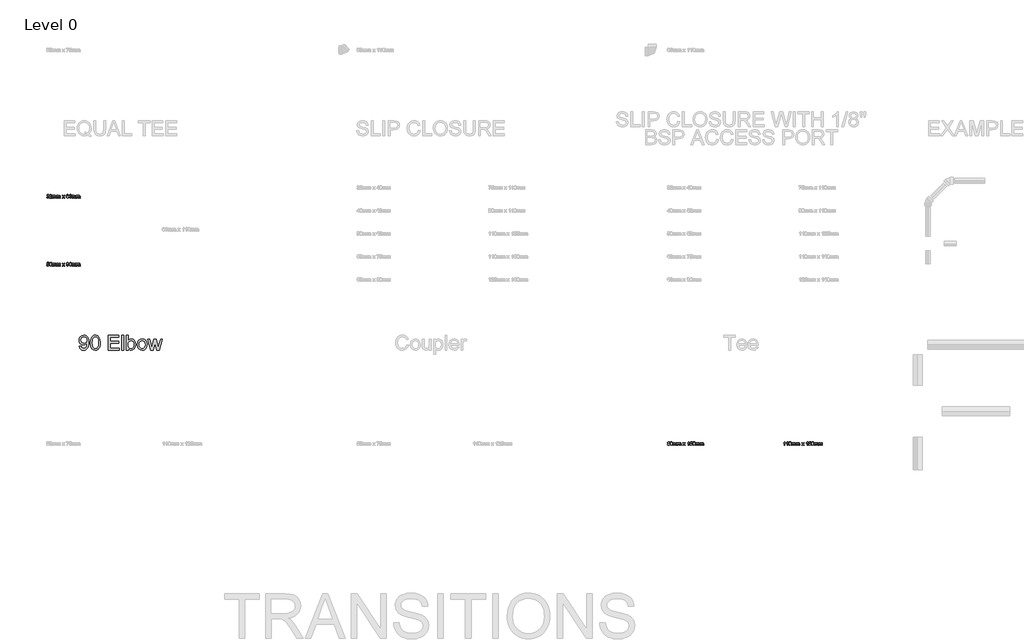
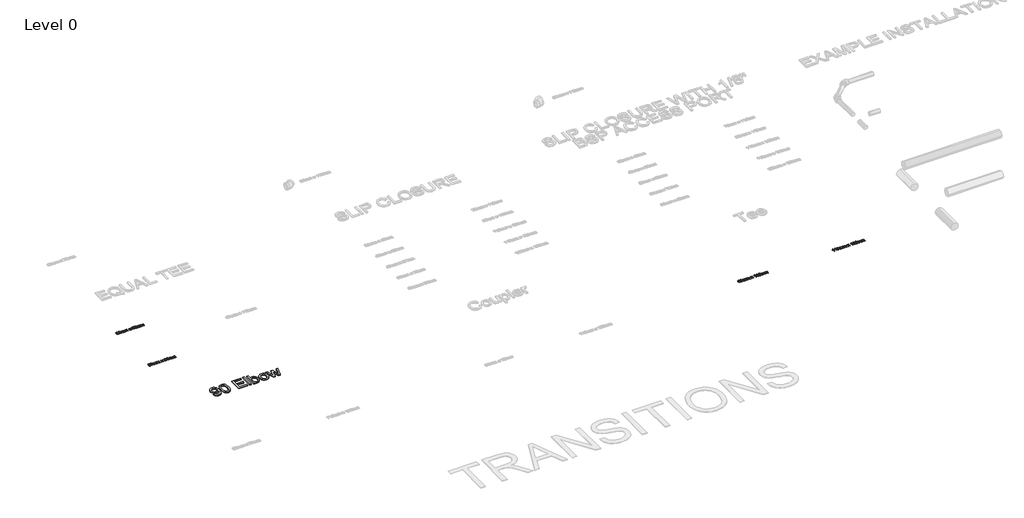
# One storey, part 7 of 21: 5 proxies.
"""IFC4 building model written with IfcOpenShell, lengths in millimetres."""

from ifc_helpers import new_model, si_unit, origin, origin_with_axes, place, context, project, spatial, polyline, outline, extrude, element, save

model = new_model("IFC4")

# Units and contexts
model_context = context("Model", 3, world=origin())
ifc_project = project(units=[si_unit("LENGTHUNIT", "METRE", prefix="MILLI")], contexts=[model_context])

# Site, building, storey
site = spatial("IfcSite", under=ifc_project)
building = spatial("IfcBuilding", under=site)
storey = spatial("IfcBuildingStorey", under=building, Name="Level 0", Elevation=0.0)

# Proxies
placement = place(None, origin())
element("IfcBuildingElementProxy", 1, Name="200mm Arial", ObjectType="200mm Arial", at=placement, inside=storey, context=model_context, shape_type="SweptSolid", body=[
    extrude(outline(polyline([(-11195.4471642, -7302.983108), (-11170.3330867, -7299.8438483), (-11166.04113, -7314.0992756), (-11159.0513721, -7323.8052289), (-11149.5354912, -7329.3786412), (-11137.6651655, -7331.2364452), (-11117.3335539, -7326.4539793), (-11103.5502418, -7313.6762113), (-11095.3342106, -7291.8485463), (-11091.7044416, -7262.7122923), (-11091.8515944, -7257.807199), (-11100.5520035, -7268.4267259), (-11111.9379513, -7276.8389609), (-11125.1878345, -7282.3204026), (-11139.48005, -7284.1475499), (-11162.3807042, -7279.683915), (-11181.4431229, -7266.2930104), (-11194.3005986, -7245.6057795), (-11198.5864239, -7219.2531659), (-11194.0921322, -7192.0298983), (-11180.6092571, -7170.6927425), (-11160.3573532, -7156.8971677), (-11135.5559754, -7152.2986428), (-11116.8246505, -7154.9228677), (-11099.77332, -7162.7955424), (-11085.5117613, -7175.5242594), (-11075.1497518, -7192.7166113), (-11068.8405756, -7216.4817882), (-11066.7375168, -7248.9289802), (-11068.8344442, -7283.3320781), (-11075.1252263, -7309.923815), (-11085.5546809, -7329.9059387), (-11100.0676256, -7344.4801971), (-11118.038661, -7353.3829414), (-11138.8423879, -7356.3505228), (-11160.3144337, -7352.8495125), (-11177.4454719, -7342.3464815), (-11189.4261622, -7325.5036175), (-11195.4471642, -7302.983108)]), holes=[polyline([(-11091.8515944, -7218.6645547), (-11094.5616584, -7201.6438811), (-11102.6918505, -7188.547282), (-11115.3102029, -7180.1963608), (-11131.484748, -7177.4127203), (-11148.2601669, -7180.4109586), (-11161.7001225, -7189.4056734), (-11170.5292904, -7203.1705914), (-11173.4723463, -7220.4794392), (-11170.6887059, -7235.9979281), (-11162.3377846, -7248.3158435), (-11149.2289229, -7256.3540651), (-11132.171461, -7259.0334723), (-11116.1256747, -7256.3540651), (-11103.2068853, -7248.3158435), (-11094.6904171, -7235.5442069), (-11091.8515944, -7218.6645547)])]), origin_with_axes(), (0.0, 0.0, 1.0), 15.0),
    extrude(outline(polyline([(-11044.762699, -7254.3736337), (-11042.9171576, -7222.214616), (-11037.3805336, -7196.5671095), (-11028.2080092, -7177.038707), (-11015.4547667, -7163.2370008), (-10999.0288356, -7155.0332323), (-10978.8382454, -7152.2986428), (-10963.3626762, -7153.9173236), (-10949.5057877, -7158.7733659), (-10937.9175048, -7166.6766974), (-10929.2477525, -7177.4372458), (-10917.4755286, -7207.162111), (-10912.9137919, -7254.3736337), (-10914.7409391, -7286.3487105), (-10920.2223809, -7311.9349032), (-10929.339723, -7331.4816999), (-10942.0745714, -7345.3385884), (-10958.5372907, -7353.5975392), (-10978.8382454, -7356.3505228), (-11004.9333416, -7351.5680568), (-11024.7499184, -7337.220659), (-11033.5055099, -7322.091512), (-11039.7595038, -7303.2406254), (-11044.762699, -7254.3736337)]), holes=[polyline([(-11019.6486214, -7254.3245828), (-11016.7055655, -7293.8289777), (-11007.8763976, -7316.6928437), (-10994.7307476, -7327.6005449), (-10978.8382454, -7331.2364452), (-10962.9457432, -7327.5882821), (-10949.8000933, -7316.6437928), (-10940.9709254, -7293.767664), (-10938.0278694, -7254.3245828), (-10940.8728235, -7215.709236), (-10949.4076858, -7192.6675604), (-10962.5288103, -7181.2264303), (-10979.132551, -7177.4127203), (-10994.853375, -7180.7727092), (-11007.4839901, -7190.8526759), (-11016.6074636, -7215.3290913), (-11019.6486214, -7254.3245828)])]), origin_with_axes(), (0.0, 0.0, 1.0), 15.0),
    extrude(outline(polyline([(-10803.0397027, -7353.2112631), (-10803.0397027, -7152.2986428), (-10658.6337568, -7152.2986428), (-10658.6337568, -7177.4127203), (-10777.9256251, -7177.4127203), (-10777.9256251, -7237.0586545), (-10664.9122762, -7237.0586545), (-10664.9122762, -7262.172732), (-10777.9256251, -7262.172732), (-10777.9256251, -7328.0971856), (-10655.4944971, -7328.0971856), (-10655.4944971, -7353.2112631), (-10803.0397027, -7353.2112631)])), origin_with_axes(), (0.0, 0.0, 1.0), 15.0),
    extrude(outline(polyline([(-10620.9626405, -7353.2112631), (-10620.9626405, -7152.2986428), (-10595.848563, -7152.2986428), (-10595.848563, -7353.2112631), (-10620.9626405, -7353.2112631)])), origin_with_axes(), (0.0, 0.0, 1.0), 15.0),
    extrude(outline(polyline([(-10533.0633691, -7353.2112631), (-10558.1774467, -7353.2112631), (-10558.1774467, -7152.2986428), (-10533.0633691, -7152.2986428), (-10533.0633691, -7226.8070095), (-10515.4786098, -7208.5968508), (-10505.0859434, -7204.0443111), (-10493.6264193, -7202.5267979), (-10468.4632908, -7207.9959769), (-10448.9410196, -7223.3734443), (-10436.9480665, -7247.2857739), (-10432.607059, -7277.2313684), (-10437.1013507, -7310.7576808), (-10450.5842258, -7335.7000801), (-10470.3701458, -7351.1879121), (-10493.7735721, -7356.3505228), (-10505.6101753, -7354.6858568), (-10516.1040092, -7349.6918587), (-10525.2550738, -7341.3685285), (-10533.0633691, -7329.7158663), (-10533.0633691, -7353.2112631)]), holes=[polyline([(-10533.0633691, -7278.4085907), (-10531.3465865, -7299.353339), (-10526.1962386, -7313.5290585), (-10513.0383259, -7326.8095986), (-10495.9318131, -7331.2364452), (-10481.4372625, -7327.9745582), (-10469.051902, -7318.1888971), (-10460.5538279, -7301.9407757), (-10457.7211365, -7279.2915075), (-10460.4373319, -7256.3111456), (-10468.5859181, -7240.2469651), (-10480.5850025, -7230.7923978), (-10494.8526926, -7227.6408754), (-10509.3472432, -7230.9027624), (-10521.7326037, -7240.6884235), (-10530.2306778, -7256.6422394), (-10533.0633691, -7278.4085907)])]), origin_with_axes(), (0.0, 0.0, 1.0), 15.0),
    extrude(outline(polyline([(-10410.6322411, -7279.4386603), (-10405.1998504, -7243.8644714), (-10398.4093619, -7230.0413054), (-10388.902678, -7218.8607585), (-10368.7672701, -7206.610288), (-10344.6587367, -7202.5267979), (-10318.2754663, -7207.4993362), (-10297.2019593, -7222.4169511), (-10283.3879904, -7246.1024202), (-10278.7833341, -7277.3785212), (-10280.8189478, -7302.7501161), (-10286.9257889, -7322.0639208), (-10296.9260478, -7336.5278146), (-10310.6419149, -7347.3496766), (-10326.9329559, -7354.1003112), (-10344.6587367, -7356.3505228), (-10371.3608382, -7351.3963786), (-10392.4098197, -7336.533946), (-10406.0766358, -7312.3518362), (-10410.6322411, -7279.4386603)]), holes=[polyline([(-10385.5181636, -7279.3896094), (-10382.6118959, -7302.1185853), (-10373.8930926, -7318.3115245), (-10360.7719681, -7328.0052151), (-10344.6587367, -7331.2364452), (-10328.6190817, -7327.986821), (-10315.5224827, -7318.2379481), (-10306.8036794, -7301.8304111), (-10303.8974116, -7278.6047945), (-10306.8220735, -7256.5380061), (-10315.5960591, -7240.5657962), (-10328.7110522, -7230.8721056), (-10344.6587367, -7227.6408754), (-10360.7719681, -7230.8598429), (-10373.8930926, -7240.5167452), (-10382.6118959, -7256.6728962), (-10385.5181636, -7279.3896094)])]), origin_with_axes(), (0.0, 0.0, 1.0), 15.0),
    extrude(outline(polyline([(-10226.0535814, -7353.2112631), (-10270.9351848, -7205.6660576), (-10244.8400887, -7205.6660576), (-10219.3826546, -7291.7504444), (-10211.77976, -7322.5053792), (-10205.5502916, -7292.8786159), (-10185.2922564, -7205.6660576), (-10155.3711874, -7205.6660576), (-10135.2112541, -7292.6333612), (-10129.6684987, -7319.4642214), (-10121.7222476, -7291.1618332), (-10096.2157626, -7205.6660576), (-10070.0225645, -7205.6660576), (-10115.2475245, -7353.2112631), (-10145.6100518, -7353.2112631), (-10164.8870684, -7266.6854178), (-10170.4788747, -7239.7074048), (-10195.3476976, -7353.2112631), (-10226.0535814, -7353.2112631)])), origin_with_axes(), (0.0, 0.0, 1.0), 15.0),
])
element("IfcBuildingElementProxy", 2, Name="50mm", ObjectType="50mm", at=placement, inside=storey, context=model_context, shape_type="SweptSolid", body=[
    extrude(outline(polyline([(-11638.2285688, -5283.2605095), (-11631.9500494, -5282.4756946), (-11628.4858273, -5289.0853078), (-11622.0049728, -5291.1086588), (-11614.3775528, -5288.3250183), (-11611.5448614, -5281.4333623), (-11614.3530273, -5274.9402451), (-11621.4899381, -5272.3712025), (-11625.8922593, -5273.0579155), (-11625.1932835, -5266.7793962), (-11617.0630914, -5265.0503508), (-11613.8993062, -5259.5075954), (-11616.1924373, -5254.5963707), (-11622.1030747, -5252.6527275), (-11628.0872885, -5254.6147648), (-11631.1652345, -5260.5008768), (-11637.4437539, -5259.7160618), (-11632.3056687, -5249.8690871), (-11622.3238039, -5246.3742082), (-11614.7515662, -5248.0971222), (-11609.4540654, -5252.8060117), (-11607.6207868, -5259.1397134), (-11609.3620949, -5264.9277234), (-11614.5124429, -5269.08479), (-11607.6698378, -5273.3767466), (-11605.2663421, -5281.5437269), (-11610.0733335, -5292.7763905), (-11622.225702, -5297.3871782), (-11633.2376364, -5293.4508408), (-11638.2285688, -5283.2605095)])), origin_with_axes(), (0.0, 0.0, 1.0), 5.0),
    extrude(outline(polyline([(-11567.5952258, -5290.3238438), (-11567.5952258, -5296.6023632), (-11600.5574525, -5296.6023632), (-11599.8830022, -5292.2736184), (-11596.0692922, -5285.6088229), (-11588.2088802, -5278.3308908), (-11577.3686241, -5267.8707794), (-11574.6585601, -5260.7583942), (-11577.2153399, -5255.0010409), (-11583.8923981, -5252.6527275), (-11590.8514992, -5254.9458586), (-11593.4941182, -5261.2856917), (-11599.7726376, -5260.5008768), (-11594.9595148, -5249.9917144), (-11583.7575081, -5246.3742082), (-11572.5187131, -5250.3963846), (-11568.3800407, -5260.3782494), (-11569.4959494, -5266.3318064), (-11573.2054262, -5272.4876984), (-11582.200141, -5281.0900058), (-11589.4228908, -5287.1294019), (-11592.2555822, -5290.3238438), (-11567.5952258, -5290.3238438)])), origin_with_axes(), (0.0, 0.0, 1.0), 5.0),
    extrude(outline(polyline([(-11559.7470765, -5296.6023632), (-11559.7470765, -5259.7160618), (-11553.4685571, -5259.7160618), (-11553.4685571, -5265.7861148), (-11549.1520751, -5260.8135765), (-11543.0084457, -5258.9312469), (-11536.7176636, -5260.8503647), (-11533.2595729, -5266.2275732), (-11528.360611, -5260.7553285), (-11522.1740621, -5258.9312469), (-11513.9641622, -5261.9662734), (-11511.0885513, -5271.3166074), (-11511.0885513, -5296.6023632), (-11517.3670707, -5296.6023632), (-11517.3670707, -5274.0144087), (-11517.9495505, -5268.7720903), (-11520.0587406, -5266.190785), (-11523.6455901, -5265.2097663), (-11529.8198762, -5267.7236266), (-11532.2785542, -5275.7802423), (-11532.2785542, -5296.6023632), (-11538.5570736, -5296.6023632), (-11538.5570736, -5273.3154329), (-11540.0102075, -5267.2331173), (-11544.7742793, -5265.2097663), (-11549.4218552, -5266.558667), (-11552.512064, -5270.507267), (-11553.4685571, -5277.999797), (-11553.4685571, -5296.6023632), (-11559.7470765, -5296.6023632)])), origin_with_axes(), (0.0, 0.0, 1.0), 5.0),
    extrude(outline(polyline([(-11501.6707722, -5296.6023632), (-11501.6707722, -5259.7160618), (-11495.3922528, -5259.7160618), (-11495.3922528, -5265.7861148), (-11491.0757708, -5260.8135765), (-11484.9321414, -5258.9312469), (-11478.6413593, -5260.8503647), (-11475.1832686, -5266.2275732), (-11470.2843067, -5260.7553285), (-11464.0977578, -5258.9312469), (-11455.8878579, -5261.9662734), (-11453.012247, -5271.3166074), (-11453.012247, -5296.6023632), (-11459.2907664, -5296.6023632), (-11459.2907664, -5274.0144087), (-11459.8732462, -5268.7720903), (-11461.9824363, -5266.190785), (-11465.5692858, -5265.2097663), (-11471.7435719, -5267.7236266), (-11474.2022499, -5275.7802423), (-11474.2022499, -5296.6023632), (-11480.4807693, -5296.6023632), (-11480.4807693, -5273.3154329), (-11481.9339032, -5267.2331173), (-11486.697975, -5265.2097663), (-11491.3455509, -5266.558667), (-11494.4357597, -5270.507267), (-11495.3922528, -5277.999797), (-11495.3922528, -5296.6023632), (-11501.6707722, -5296.6023632)])), origin_with_axes(), (0.0, 0.0, 1.0), 5.0),
    extrude(outline(polyline([(-11427.8981695, -5296.6023632), (-11414.4827394, -5278.0611107), (-11427.1133545, -5259.7160618), (-11419.5595109, -5259.7160618), (-11413.4649325, -5268.5452297), (-11410.6199784, -5272.714559), (-11408.155169, -5269.3055192), (-11401.2144621, -5259.7160618), (-11393.6606184, -5259.7160618), (-11406.9288957, -5278.0611107), (-11394.1511278, -5296.6023632), (-11401.7049714, -5296.6023632), (-11409.3937051, -5285.4555388), (-11410.8039194, -5283.4199251), (-11420.3443258, -5296.6023632), (-11427.8981695, -5296.6023632)])), origin_with_axes(), (0.0, 0.0, 1.0), 5.0),
    extrude(outline(polyline([(-11338.4292682, -5259.7160618), (-11344.7077876, -5260.5008768), (-11347.0867578, -5255.2646897), (-11353.37754, -5252.6527275), (-11359.0429227, -5254.1733065), (-11363.3287479, -5259.8816087), (-11365.1129756, -5271.0713528), (-11359.5763516, -5266.0620263), (-11352.7153524, -5264.4249514), (-11342.0467745, -5268.900849), (-11337.6444533, -5280.4646064), (-11339.7168552, -5289.1282274), (-11345.4190261, -5295.2595939), (-11353.6473201, -5297.3871782), (-11366.4434822, -5291.7463209), (-11370.1544918, -5284.2783164), (-11371.391495, -5273.1560174), (-11370.0180689, -5260.6510953), (-11365.8977905, -5252.1009045), (-11360.2722617, -5247.8058823), (-11352.9851325, -5246.3742082), (-11343.0645814, -5249.918138), (-11338.4292682, -5259.7160618)]), holes=[polyline([(-11365.1129756, -5280.3665045), (-11363.6598417, -5285.8050267), (-11359.7970808, -5289.7536268), (-11354.1378294, -5291.1086588), (-11346.73727, -5288.3004929), (-11343.9229727, -5280.6730728), (-11346.7004818, -5273.3706152), (-11354.3953468, -5270.7034708), (-11361.99211, -5273.3706152), (-11365.1129756, -5280.3665045)])]), origin_with_axes(), (0.0, 0.0, 1.0), 5.0),
    extrude(outline(polyline([(-11332.1507488, -5283.2605095), (-11325.8722295, -5282.4756946), (-11322.4080073, -5289.0853078), (-11315.9271529, -5291.1086588), (-11308.2997328, -5288.3250183), (-11305.4670415, -5281.4333623), (-11308.2752074, -5274.9402451), (-11315.4121181, -5272.3712025), (-11319.8144393, -5273.0579155), (-11319.1154635, -5266.7793962), (-11310.9852714, -5265.0503508), (-11307.8214862, -5259.5075954), (-11310.1146173, -5254.5963707), (-11316.0252547, -5252.6527275), (-11322.0094685, -5254.6147648), (-11325.0874145, -5260.5008768), (-11331.3659339, -5259.7160618), (-11326.2278487, -5249.8690871), (-11316.2459839, -5246.3742082), (-11308.6737462, -5248.0971222), (-11303.3762455, -5252.8060117), (-11301.5429668, -5259.1397134), (-11303.284275, -5264.9277234), (-11308.4346229, -5269.08479), (-11301.5920178, -5273.3767466), (-11299.1885221, -5281.5437269), (-11303.9955135, -5292.7763905), (-11316.1478821, -5297.3871782), (-11327.1598164, -5293.4508408), (-11332.1507488, -5283.2605095)])), origin_with_axes(), (0.0, 0.0, 1.0), 5.0),
    extrude(outline(polyline([(-11292.1251878, -5296.6023632), (-11292.1251878, -5259.7160618), (-11285.8466684, -5259.7160618), (-11285.8466684, -5265.7861148), (-11281.5301863, -5260.8135765), (-11275.386557, -5258.9312469), (-11269.0957749, -5260.8503647), (-11265.6376841, -5266.2275732), (-11260.7387222, -5260.7553285), (-11254.5521733, -5258.9312469), (-11246.3422735, -5261.9662734), (-11243.4666625, -5271.3166074), (-11243.4666625, -5296.6023632), (-11249.7451819, -5296.6023632), (-11249.7451819, -5274.0144087), (-11250.3276618, -5268.7720903), (-11252.4368519, -5266.190785), (-11256.0237013, -5265.2097663), (-11262.1979875, -5267.7236266), (-11264.6566655, -5275.7802423), (-11264.6566655, -5296.6023632), (-11270.9351848, -5296.6023632), (-11270.9351848, -5273.3154329), (-11272.3883187, -5267.2331173), (-11277.1523906, -5265.2097663), (-11281.7999664, -5266.558667), (-11284.8901752, -5270.507267), (-11285.8466684, -5277.999797), (-11285.8466684, -5296.6023632), (-11292.1251878, -5296.6023632)])), origin_with_axes(), (0.0, 0.0, 1.0), 5.0),
    extrude(outline(polyline([(-11234.0488835, -5296.6023632), (-11234.0488835, -5259.7160618), (-11227.7703641, -5259.7160618), (-11227.7703641, -5265.7861148), (-11223.453882, -5260.8135765), (-11217.3102527, -5258.9312469), (-11211.0194706, -5260.8503647), (-11207.5613798, -5266.2275732), (-11202.6624179, -5260.7553285), (-11196.475869, -5258.9312469), (-11188.2659692, -5261.9662734), (-11185.3903582, -5271.3166074), (-11185.3903582, -5296.6023632), (-11191.6688776, -5296.6023632), (-11191.6688776, -5274.0144087), (-11192.2513574, -5268.7720903), (-11194.3605476, -5266.190785), (-11197.947397, -5265.2097663), (-11204.1216832, -5267.7236266), (-11206.5803612, -5275.7802423), (-11206.5803612, -5296.6023632), (-11212.8588805, -5296.6023632), (-11212.8588805, -5273.3154329), (-11214.3120144, -5267.2331173), (-11219.0760863, -5265.2097663), (-11223.7236621, -5266.558667), (-11226.8138709, -5270.507267), (-11227.7703641, -5277.999797), (-11227.7703641, -5296.6023632), (-11234.0488835, -5296.6023632)])), origin_with_axes(), (0.0, 0.0, 1.0), 5.0),
])
element("IfcBuildingElementProxy", 3, Name="50mm", ObjectType="50mm", at=placement, inside=storey, context=model_context, shape_type="SweptSolid", body=[
    extrude(outline(polyline([(-11638.2285688, -6203.2605095), (-11631.9500494, -6202.4756946), (-11628.7862643, -6208.9442864), (-11622.225702, -6211.1086588), (-11614.3530273, -6208.0981578), (-11611.5448614, -6200.1089871), (-11614.1752177, -6192.6532453), (-11622.1276002, -6189.9186558), (-11627.6396987, -6191.0100391), (-11631.1652345, -6193.8427305), (-11637.4437539, -6193.0579155), (-11631.9500494, -6167.1590231), (-11607.6207868, -6167.1590231), (-11607.6207868, -6173.4375425), (-11626.8732779, -6173.4375425), (-11629.5588165, -6187.2699055), (-11620.3740293, -6183.6401365), (-11609.6380064, -6188.1405595), (-11605.2663421, -6199.7165797), (-11609.2026794, -6211.3661762), (-11614.8557994, -6215.8819277), (-11622.2502275, -6217.3871782), (-11633.3296069, -6213.5182858), (-11638.2285688, -6203.2605095)])), origin_with_axes(), (0.0, 0.0, 1.0), 5.0),
    extrude(outline(polyline([(-11599.7726376, -6191.8929559), (-11597.9270963, -6177.4413248), (-11592.4456545, -6169.1087977), (-11583.2915242, -6166.3742082), (-11575.9584098, -6167.9928889), (-11570.893901, -6172.6588589), (-11567.950845, -6180.0900752), (-11566.8104108, -6191.8929559), (-11568.6375581, -6206.2832733), (-11574.1006057, -6214.6341946), (-11583.2915242, -6217.3871782), (-11594.7694425, -6212.6047122), (-11598.5218388, -6204.1097038), (-11599.7726376, -6191.8929559)]), holes=[polyline([(-11593.4941182, -6191.8806932), (-11590.5510623, -6207.4727584), (-11583.2915242, -6211.1086588), (-11576.0319862, -6207.4604957), (-11573.0889302, -6191.8806932), (-11575.9338843, -6176.4664376), (-11583.3651006, -6172.6527275), (-11590.4529604, -6176.0127164), (-11593.4941182, -6191.8806932)])]), origin_with_axes(), (0.0, 0.0, 1.0), 5.0),
    extrude(outline(polyline([(-11559.7470765, -6216.6023632), (-11559.7470765, -6179.7160618), (-11553.4685571, -6179.7160618), (-11553.4685571, -6185.7861148), (-11549.1520751, -6180.8135765), (-11543.0084457, -6178.9312469), (-11536.7176636, -6180.8503647), (-11533.2595729, -6186.2275732), (-11528.360611, -6180.7553285), (-11522.1740621, -6178.9312469), (-11513.9641622, -6181.9662734), (-11511.0885513, -6191.3166074), (-11511.0885513, -6216.6023632), (-11517.3670707, -6216.6023632), (-11517.3670707, -6194.0144087), (-11517.9495505, -6188.7720903), (-11520.0587406, -6186.190785), (-11523.6455901, -6185.2097663), (-11529.8198762, -6187.7236266), (-11532.2785542, -6195.7802423), (-11532.2785542, -6216.6023632), (-11538.5570736, -6216.6023632), (-11538.5570736, -6193.3154329), (-11540.0102075, -6187.2331173), (-11544.7742793, -6185.2097663), (-11549.4218552, -6186.558667), (-11552.512064, -6190.507267), (-11553.4685571, -6197.999797), (-11553.4685571, -6216.6023632), (-11559.7470765, -6216.6023632)])), origin_with_axes(), (0.0, 0.0, 1.0), 5.0),
    extrude(outline(polyline([(-11501.6707722, -6216.6023632), (-11501.6707722, -6179.7160618), (-11495.3922528, -6179.7160618), (-11495.3922528, -6185.7861148), (-11491.0757708, -6180.8135765), (-11484.9321414, -6178.9312469), (-11478.6413593, -6180.8503647), (-11475.1832686, -6186.2275732), (-11470.2843067, -6180.7553285), (-11464.0977578, -6178.9312469), (-11455.8878579, -6181.9662734), (-11453.012247, -6191.3166074), (-11453.012247, -6216.6023632), (-11459.2907664, -6216.6023632), (-11459.2907664, -6194.0144087), (-11459.8732462, -6188.7720903), (-11461.9824363, -6186.190785), (-11465.5692858, -6185.2097663), (-11471.7435719, -6187.7236266), (-11474.2022499, -6195.7802423), (-11474.2022499, -6216.6023632), (-11480.4807693, -6216.6023632), (-11480.4807693, -6193.3154329), (-11481.9339032, -6187.2331173), (-11486.697975, -6185.2097663), (-11491.3455509, -6186.558667), (-11494.4357597, -6190.507267), (-11495.3922528, -6197.999797), (-11495.3922528, -6216.6023632), (-11501.6707722, -6216.6023632)])), origin_with_axes(), (0.0, 0.0, 1.0), 5.0),
    extrude(outline(polyline([(-11427.8981695, -6216.6023632), (-11414.4827394, -6198.0611107), (-11427.1133545, -6179.7160618), (-11419.5595109, -6179.7160618), (-11413.4649325, -6188.5452297), (-11410.6199784, -6192.714559), (-11408.155169, -6189.3055192), (-11401.2144621, -6179.7160618), (-11393.6606184, -6179.7160618), (-11406.9288957, -6198.0611107), (-11394.1511278, -6216.6023632), (-11401.7049714, -6216.6023632), (-11409.3937051, -6205.4555388), (-11410.8039194, -6203.4199251), (-11420.3443258, -6216.6023632), (-11427.8981695, -6216.6023632)])), origin_with_axes(), (0.0, 0.0, 1.0), 5.0),
    extrude(outline(polyline([(-11369.8218652, -6204.0453245), (-11363.5433458, -6203.2605095), (-11360.7229171, -6209.2508547), (-11355.3763655, -6211.1086588), (-11350.2934626, -6209.9130423), (-11346.8476346, -6206.7186003), (-11344.7936267, -6201.261684), (-11343.8861845, -6193.9776205), (-11348.9445619, -6197.5092877), (-11355.8300866, -6199.3364349), (-11366.3208548, -6194.8728), (-11370.6066801, -6183.1128389), (-11366.1123884, -6170.9727331), (-11354.8490679, -6166.3742082), (-11345.9034041, -6168.9984331), (-11339.747512, -6176.4787003), (-11337.6444533, -6190.5317925), (-11339.7413807, -6205.7805012), (-11345.9769805, -6214.4195967), (-11355.6706711, -6217.3871782), (-11365.3214421, -6213.8861678), (-11369.8218652, -6204.0453245)]), holes=[polyline([(-11343.9229727, -6182.9656861), (-11346.6330367, -6175.436368), (-11353.8312611, -6172.6527275), (-11361.3851047, -6175.6509658), (-11364.3281607, -6183.4194073), (-11361.5445203, -6190.3785083), (-11354.0029394, -6193.0579155), (-11346.7617954, -6190.3785083), (-11343.9229727, -6182.9656861)])]), origin_with_axes(), (0.0, 0.0, 1.0), 5.0),
    extrude(outline(polyline([(-11332.1507488, -6191.8929559), (-11330.3052075, -6177.4413248), (-11324.8237658, -6169.1087977), (-11315.6696355, -6166.3742082), (-11308.336521, -6167.9928889), (-11303.2720122, -6172.6588589), (-11300.3289563, -6180.0900752), (-11299.1885221, -6191.8929559), (-11301.0156693, -6206.2832733), (-11306.4787169, -6214.6341946), (-11315.6696355, -6217.3871782), (-11327.1475537, -6212.6047122), (-11330.8999501, -6204.1097038), (-11332.1507488, -6191.8929559)]), holes=[polyline([(-11325.8722295, -6191.8806932), (-11322.9291735, -6207.4727584), (-11315.6696355, -6211.1086588), (-11308.4100974, -6207.4604957), (-11305.4670415, -6191.8806932), (-11308.3119956, -6176.4664376), (-11315.7432119, -6172.6527275), (-11322.8310716, -6176.0127164), (-11325.8722295, -6191.8806932)])]), origin_with_axes(), (0.0, 0.0, 1.0), 5.0),
    extrude(outline(polyline([(-11292.1251878, -6216.6023632), (-11292.1251878, -6179.7160618), (-11285.8466684, -6179.7160618), (-11285.8466684, -6185.7861148), (-11281.5301863, -6180.8135765), (-11275.386557, -6178.9312469), (-11269.0957749, -6180.8503647), (-11265.6376841, -6186.2275732), (-11260.7387222, -6180.7553285), (-11254.5521733, -6178.9312469), (-11246.3422735, -6181.9662734), (-11243.4666625, -6191.3166074), (-11243.4666625, -6216.6023632), (-11249.7451819, -6216.6023632), (-11249.7451819, -6194.0144087), (-11250.3276618, -6188.7720903), (-11252.4368519, -6186.190785), (-11256.0237013, -6185.2097663), (-11262.1979875, -6187.7236266), (-11264.6566655, -6195.7802423), (-11264.6566655, -6216.6023632), (-11270.9351848, -6216.6023632), (-11270.9351848, -6193.3154329), (-11272.3883187, -6187.2331173), (-11277.1523906, -6185.2097663), (-11281.7999664, -6186.558667), (-11284.8901752, -6190.507267), (-11285.8466684, -6197.999797), (-11285.8466684, -6216.6023632), (-11292.1251878, -6216.6023632)])), origin_with_axes(), (0.0, 0.0, 1.0), 5.0),
    extrude(outline(polyline([(-11234.0488835, -6216.6023632), (-11234.0488835, -6179.7160618), (-11227.7703641, -6179.7160618), (-11227.7703641, -6185.7861148), (-11223.453882, -6180.8135765), (-11217.3102527, -6178.9312469), (-11211.0194706, -6180.8503647), (-11207.5613798, -6186.2275732), (-11202.6624179, -6180.7553285), (-11196.475869, -6178.9312469), (-11188.2659692, -6181.9662734), (-11185.3903582, -6191.3166074), (-11185.3903582, -6216.6023632), (-11191.6688776, -6216.6023632), (-11191.6688776, -6194.0144087), (-11192.2513574, -6188.7720903), (-11194.3605476, -6186.190785), (-11197.947397, -6185.2097663), (-11204.1216832, -6187.7236266), (-11206.5803612, -6195.7802423), (-11206.5803612, -6216.6023632), (-11212.8588805, -6216.6023632), (-11212.8588805, -6193.3154329), (-11214.3120144, -6187.2331173), (-11219.0760863, -6185.2097663), (-11223.7236621, -6186.558667), (-11226.8138709, -6190.507267), (-11227.7703641, -6197.999797), (-11227.7703641, -6216.6023632), (-11234.0488835, -6216.6023632)])), origin_with_axes(), (0.0, 0.0, 1.0), 5.0),
])
element("IfcBuildingElementProxy", 4, Name="50mm", ObjectType="50mm", at=placement, inside=storey, context=model_context, shape_type="SweptSolid", body=[
    extrude(outline(polyline([(-3237.4437539, -8631.2877962), (-3231.1652345, -8630.5029813), (-3228.3448059, -8636.4933265), (-3222.9982542, -8638.3511305), (-3217.9153513, -8637.1555141), (-3214.4695233, -8633.9610721), (-3212.4155155, -8628.5041558), (-3211.5080732, -8621.2200923), (-3216.5664507, -8624.7517595), (-3223.4519754, -8626.5789067), (-3233.9427436, -8622.1152718), (-3238.2285688, -8610.3553107), (-3233.7342771, -8598.2152049), (-3222.4709567, -8593.6166799), (-3213.5252929, -8596.2409048), (-3207.3694008, -8603.7211721), (-3205.2663421, -8617.7742643), (-3207.3632694, -8633.022973), (-3213.5988693, -8641.6620685), (-3223.2925598, -8644.6296499), (-3232.9433308, -8641.1286396), (-3237.4437539, -8631.2877962)]), holes=[polyline([(-3211.5448614, -8610.2081579), (-3214.2549255, -8602.6788397), (-3221.4531499, -8599.8951993), (-3229.0069935, -8602.8934376), (-3231.9500494, -8610.661879), (-3229.166409, -8617.6209801), (-3221.6248281, -8620.3003873), (-3214.3836842, -8617.6209801), (-3211.5448614, -8610.2081579)])]), origin_with_axes(), (0.0, 0.0, 1.0), 5.0),
    extrude(outline(polyline([(-3199.7726376, -8619.1354277), (-3197.9270963, -8604.6837966), (-3192.4456545, -8596.3512694), (-3183.2915242, -8593.6166799), (-3175.9584098, -8595.2353607), (-3170.893901, -8599.9013307), (-3167.950845, -8607.332547), (-3166.8104108, -8619.1354277), (-3168.6375581, -8633.525745), (-3174.1006057, -8641.8766663), (-3183.2915242, -8644.6296499), (-3194.7694425, -8639.847184), (-3198.5218388, -8631.3521756), (-3199.7726376, -8619.1354277)]), holes=[polyline([(-3193.4941182, -8619.1231649), (-3190.5510623, -8634.7152302), (-3183.2915242, -8638.3511305), (-3176.0319862, -8634.7029674), (-3173.0889302, -8619.1231649), (-3175.9338843, -8603.7089093), (-3183.3651006, -8599.8951993), (-3190.4529604, -8603.2551882), (-3193.4941182, -8619.1231649)])]), origin_with_axes(), (0.0, 0.0, 1.0), 5.0),
    extrude(outline(polyline([(-3159.7470765, -8643.844835), (-3159.7470765, -8606.9585336), (-3153.4685571, -8606.9585336), (-3153.4685571, -8613.0285865), (-3149.1520751, -8608.0560482), (-3143.0084457, -8606.1737187), (-3136.7176636, -8608.0928364), (-3133.2595729, -8613.4700449), (-3128.360611, -8607.9978003), (-3122.1740621, -8606.1737187), (-3113.9641622, -8609.2087452), (-3111.0885513, -8618.5590792), (-3111.0885513, -8643.844835), (-3117.3670707, -8643.844835), (-3117.3670707, -8621.2568805), (-3117.9495505, -8616.0145621), (-3120.0587406, -8613.4332567), (-3123.6455901, -8612.4522381), (-3129.8198762, -8614.9660984), (-3132.2785542, -8623.0227141), (-3132.2785542, -8643.844835), (-3138.5570736, -8643.844835), (-3138.5570736, -8620.5579047), (-3140.0102075, -8614.4755891), (-3144.7742793, -8612.4522381), (-3149.4218552, -8613.8011387), (-3152.512064, -8617.7497388), (-3153.4685571, -8625.2422688), (-3153.4685571, -8643.844835), (-3159.7470765, -8643.844835)])), origin_with_axes(), (0.0, 0.0, 1.0), 5.0),
    extrude(outline(polyline([(-3101.6707722, -8643.844835), (-3101.6707722, -8606.9585336), (-3095.3922528, -8606.9585336), (-3095.3922528, -8613.0285865), (-3091.0757708, -8608.0560482), (-3084.9321414, -8606.1737187), (-3078.6413593, -8608.0928364), (-3075.1832686, -8613.4700449), (-3070.2843067, -8607.9978003), (-3064.0977578, -8606.1737187), (-3055.8878579, -8609.2087452), (-3053.012247, -8618.5590792), (-3053.012247, -8643.844835), (-3059.2907664, -8643.844835), (-3059.2907664, -8621.2568805), (-3059.8732462, -8616.0145621), (-3061.9824363, -8613.4332567), (-3065.5692858, -8612.4522381), (-3071.7435719, -8614.9660984), (-3074.2022499, -8623.0227141), (-3074.2022499, -8643.844835), (-3080.4807693, -8643.844835), (-3080.4807693, -8620.5579047), (-3081.9339032, -8614.4755891), (-3086.697975, -8612.4522381), (-3091.3455509, -8613.8011387), (-3094.4357597, -8617.7497388), (-3095.3922528, -8625.2422688), (-3095.3922528, -8643.844835), (-3101.6707722, -8643.844835)])), origin_with_axes(), (0.0, 0.0, 1.0), 5.0),
    extrude(outline(polyline([(-3027.8981695, -8643.844835), (-3014.4827394, -8625.3035824), (-3027.1133545, -8606.9585336), (-3019.5595109, -8606.9585336), (-3013.4649325, -8615.7877015), (-3010.6199784, -8619.9570308), (-3008.155169, -8616.547991), (-3001.2144621, -8606.9585336), (-2993.6606184, -8606.9585336), (-3006.9288957, -8625.3035824), (-2994.1511278, -8643.844835), (-3001.7049714, -8643.844835), (-3009.3937051, -8632.6980105), (-3010.8039194, -8630.6623968), (-3020.3443258, -8643.844835), (-3027.8981695, -8643.844835)])), origin_with_axes(), (0.0, 0.0, 1.0), 5.0),
    extrude(outline(polyline([(-2947.0622324, -8643.844835), (-2953.3407518, -8643.844835), (-2953.3407518, -8604.7021907), (-2959.2881774, -8608.938965), (-2965.8977905, -8612.1088815), (-2965.8977905, -8606.1737187), (-2956.6946093, -8600.2998695), (-2951.1089343, -8593.6166799), (-2947.0622324, -8593.6166799), (-2947.0622324, -8643.844835)])), origin_with_axes(), (0.0, 0.0, 1.0), 5.0),
    extrude(outline(polyline([(-2899.973337, -8606.9585336), (-2906.2518564, -8607.7433485), (-2908.6308266, -8602.5071615), (-2914.9216087, -8599.8951993), (-2920.5869915, -8601.4157782), (-2924.8728167, -8607.1240805), (-2926.6570444, -8618.3138245), (-2921.1204204, -8613.304498), (-2914.2594211, -8611.6674232), (-2903.5908433, -8616.1433208), (-2899.1885221, -8627.7070781), (-2901.260924, -8636.3706991), (-2906.9630949, -8642.5020657), (-2915.1913889, -8644.6296499), (-2927.9875509, -8638.9887927), (-2931.6985606, -8631.5207882), (-2932.9355638, -8620.3984892), (-2931.5621377, -8607.893567), (-2927.4418593, -8599.3433763), (-2921.8163305, -8595.048354), (-2914.5292013, -8593.6166799), (-2904.6086501, -8597.1606098), (-2899.973337, -8606.9585336)]), holes=[polyline([(-2926.6570444, -8627.6089763), (-2925.2039105, -8633.0474984), (-2921.3411496, -8636.9960985), (-2915.6818982, -8638.3511305), (-2908.2813387, -8635.5429646), (-2905.4670415, -8627.9155446), (-2908.2445505, -8620.613087), (-2915.9394156, -8617.9459425), (-2923.5361788, -8620.613087), (-2926.6570444, -8627.6089763)])]), origin_with_axes(), (0.0, 0.0, 1.0), 5.0),
    extrude(outline(polyline([(-2893.6948176, -8619.1354277), (-2891.8492763, -8604.6837966), (-2886.3678345, -8596.3512694), (-2877.2137042, -8593.6166799), (-2869.8805898, -8595.2353607), (-2864.816081, -8599.9013307), (-2861.873025, -8607.332547), (-2860.7325908, -8619.1354277), (-2862.5597381, -8633.525745), (-2868.0227857, -8641.8766663), (-2877.2137042, -8644.6296499), (-2888.6916225, -8639.847184), (-2892.4440188, -8631.3521756), (-2893.6948176, -8619.1354277)]), holes=[polyline([(-2887.4162982, -8619.1231649), (-2884.4732423, -8634.7152302), (-2877.2137042, -8638.3511305), (-2869.9541662, -8634.7029674), (-2867.0111102, -8619.1231649), (-2869.8560643, -8603.7089093), (-2877.2872806, -8599.8951993), (-2884.3751404, -8603.2551882), (-2887.4162982, -8619.1231649)])]), origin_with_axes(), (0.0, 0.0, 1.0), 5.0),
    extrude(outline(polyline([(-2853.6692565, -8643.844835), (-2853.6692565, -8606.9585336), (-2847.3907372, -8606.9585336), (-2847.3907372, -8613.0285865), (-2843.0742551, -8608.0560482), (-2836.9306258, -8606.1737187), (-2830.6398436, -8608.0928364), (-2827.1817529, -8613.4700449), (-2822.282791, -8607.9978003), (-2816.0962421, -8606.1737187), (-2807.8863422, -8609.2087452), (-2805.0107313, -8618.5590792), (-2805.0107313, -8643.844835), (-2811.2892507, -8643.844835), (-2811.2892507, -8621.2568805), (-2811.8717305, -8616.0145621), (-2813.9809206, -8613.4332567), (-2817.5677701, -8612.4522381), (-2823.7420562, -8614.9660984), (-2826.2007342, -8623.0227141), (-2826.2007342, -8643.844835), (-2832.4792536, -8643.844835), (-2832.4792536, -8620.5579047), (-2833.9323875, -8614.4755891), (-2838.6964593, -8612.4522381), (-2843.3440352, -8613.8011387), (-2846.434244, -8617.7497388), (-2847.3907372, -8625.2422688), (-2847.3907372, -8643.844835), (-2853.6692565, -8643.844835)])), origin_with_axes(), (0.0, 0.0, 1.0), 5.0),
    extrude(outline(polyline([(-2795.5929522, -8643.844835), (-2795.5929522, -8606.9585336), (-2789.3144329, -8606.9585336), (-2789.3144329, -8613.0285865), (-2784.9979508, -8608.0560482), (-2778.8543215, -8606.1737187), (-2772.5635393, -8608.0928364), (-2769.1054486, -8613.4700449), (-2764.2064867, -8607.9978003), (-2758.0199378, -8606.1737187), (-2749.8100379, -8609.2087452), (-2746.934427, -8618.5590792), (-2746.934427, -8643.844835), (-2753.2129464, -8643.844835), (-2753.2129464, -8621.2568805), (-2753.7954262, -8616.0145621), (-2755.9046163, -8613.4332567), (-2759.4914658, -8612.4522381), (-2765.6657519, -8614.9660984), (-2768.1244299, -8623.0227141), (-2768.1244299, -8643.844835), (-2774.4029493, -8643.844835), (-2774.4029493, -8620.5579047), (-2775.8560832, -8614.4755891), (-2780.620155, -8612.4522381), (-2785.2677309, -8613.8011387), (-2788.3579397, -8617.7497388), (-2789.3144329, -8625.2422688), (-2789.3144329, -8643.844835), (-2795.5929522, -8643.844835)])), origin_with_axes(), (0.0, 0.0, 1.0), 5.0),
])
element("IfcBuildingElementProxy", 5, Name="50mm", ObjectType="50mm", at=placement, inside=storey, context=model_context, shape_type="SweptSolid", body=[
    extrude(outline(polyline([(-1648.0954492, -8643.844835), (-1654.3739685, -8643.844835), (-1654.3739685, -8604.7021907), (-1660.3213941, -8608.938965), (-1666.9310073, -8612.1088815), (-1666.9310073, -8606.1737187), (-1657.7278261, -8600.2998695), (-1652.1421511, -8593.6166799), (-1648.0954492, -8593.6166799), (-1648.0954492, -8643.844835)])), origin_with_axes(), (0.0, 0.0, 1.0), 5.0),
    extrude(outline(polyline([(-1609.6395179, -8643.844835), (-1615.9180373, -8643.844835), (-1615.9180373, -8604.7021907), (-1621.8654629, -8608.938965), (-1628.4750761, -8612.1088815), (-1628.4750761, -8606.1737187), (-1619.2718948, -8600.2998695), (-1613.6862199, -8593.6166799), (-1609.6395179, -8593.6166799), (-1609.6395179, -8643.844835)])), origin_with_axes(), (0.0, 0.0, 1.0), 5.0),
    extrude(outline(polyline([(-1594.7280344, -8619.1354277), (-1592.8824931, -8604.6837966), (-1587.4010513, -8596.3512694), (-1578.246921, -8593.6166799), (-1570.9138066, -8595.2353607), (-1565.8492978, -8599.9013307), (-1562.9062418, -8607.332547), (-1561.7658076, -8619.1354277), (-1563.5929549, -8633.525745), (-1569.0560025, -8641.8766663), (-1578.246921, -8644.6296499), (-1589.7248393, -8639.847184), (-1593.4772356, -8631.3521756), (-1594.7280344, -8619.1354277)]), holes=[polyline([(-1588.449515, -8619.1231649), (-1585.5064591, -8634.7152302), (-1578.246921, -8638.3511305), (-1570.987383, -8634.7029674), (-1568.044327, -8619.1231649), (-1570.8892811, -8603.7089093), (-1578.3204974, -8599.8951993), (-1585.4083572, -8603.2551882), (-1588.449515, -8619.1231649)])]), origin_with_axes(), (0.0, 0.0, 1.0), 5.0),
    extrude(outline(polyline([(-1554.7024733, -8643.844835), (-1554.7024733, -8606.9585336), (-1548.4239539, -8606.9585336), (-1548.4239539, -8613.0285865), (-1544.1074719, -8608.0560482), (-1537.9638425, -8606.1737187), (-1531.6730604, -8608.0928364), (-1528.2149697, -8613.4700449), (-1523.3160078, -8607.9978003), (-1517.1294589, -8606.1737187), (-1508.919559, -8609.2087452), (-1506.0439481, -8618.5590792), (-1506.0439481, -8643.844835), (-1512.3224675, -8643.844835), (-1512.3224675, -8621.2568805), (-1512.9049473, -8616.0145621), (-1515.0141374, -8613.4332567), (-1518.6009869, -8612.4522381), (-1524.775273, -8614.9660984), (-1527.233951, -8623.0227141), (-1527.233951, -8643.844835), (-1533.5124704, -8643.844835), (-1533.5124704, -8620.5579047), (-1534.9656043, -8614.4755891), (-1539.7296761, -8612.4522381), (-1544.377252, -8613.8011387), (-1547.4674607, -8617.7497388), (-1548.4239539, -8625.2422688), (-1548.4239539, -8643.844835), (-1554.7024733, -8643.844835)])), origin_with_axes(), (0.0, 0.0, 1.0), 5.0),
    extrude(outline(polyline([(-1496.626169, -8643.844835), (-1496.626169, -8606.9585336), (-1490.3476496, -8606.9585336), (-1490.3476496, -8613.0285865), (-1486.0311676, -8608.0560482), (-1479.8875382, -8606.1737187), (-1473.5967561, -8608.0928364), (-1470.1386654, -8613.4700449), (-1465.2397035, -8607.9978003), (-1459.0531546, -8606.1737187), (-1450.8432547, -8609.2087452), (-1447.9676438, -8618.5590792), (-1447.9676438, -8643.844835), (-1454.2461632, -8643.844835), (-1454.2461632, -8621.2568805), (-1454.828643, -8616.0145621), (-1456.9378331, -8613.4332567), (-1460.5246826, -8612.4522381), (-1466.6989687, -8614.9660984), (-1469.1576467, -8623.0227141), (-1469.1576467, -8643.844835), (-1475.4361661, -8643.844835), (-1475.4361661, -8620.5579047), (-1476.8893, -8614.4755891), (-1481.6533718, -8612.4522381), (-1486.3009477, -8613.8011387), (-1489.3911564, -8617.7497388), (-1490.3476496, -8625.2422688), (-1490.3476496, -8643.844835), (-1496.626169, -8643.844835)])), origin_with_axes(), (0.0, 0.0, 1.0), 5.0),
    extrude(outline(polyline([(-1422.8535663, -8643.844835), (-1409.4381362, -8625.3035824), (-1422.0687513, -8606.9585336), (-1414.5149077, -8606.9585336), (-1408.4203293, -8615.7877015), (-1405.5753752, -8619.9570308), (-1403.1105658, -8616.547991), (-1396.1698589, -8606.9585336), (-1388.6160152, -8606.9585336), (-1401.8842925, -8625.3035824), (-1389.1065246, -8643.844835), (-1396.6603682, -8643.844835), (-1404.3491019, -8632.6980105), (-1405.7593162, -8630.6623968), (-1415.2997226, -8643.844835), (-1422.8535663, -8643.844835)])), origin_with_axes(), (0.0, 0.0, 1.0), 5.0),
    extrude(outline(polyline([(-1342.0176292, -8643.844835), (-1348.2961486, -8643.844835), (-1348.2961486, -8604.7021907), (-1354.2435741, -8608.938965), (-1360.8531873, -8612.1088815), (-1360.8531873, -8606.1737187), (-1351.6500061, -8600.2998695), (-1346.0643311, -8593.6166799), (-1342.0176292, -8593.6166799), (-1342.0176292, -8643.844835)])), origin_with_axes(), (0.0, 0.0, 1.0), 5.0),
    extrude(outline(polyline([(-1294.9287338, -8606.9585336), (-1301.2072532, -8607.7433485), (-1303.5862234, -8602.5071615), (-1309.8770055, -8599.8951993), (-1315.5423883, -8601.4157782), (-1319.8282135, -8607.1240805), (-1321.6124412, -8618.3138245), (-1316.0758172, -8613.304498), (-1309.2148179, -8611.6674232), (-1298.5462401, -8616.1433208), (-1294.1439189, -8627.7070781), (-1296.2163208, -8636.3706991), (-1301.9184917, -8642.5020657), (-1310.1467857, -8644.6296499), (-1322.9429477, -8638.9887927), (-1326.6539574, -8631.5207882), (-1327.8909606, -8620.3984892), (-1326.5175344, -8607.893567), (-1322.3972561, -8599.3433763), (-1316.7717273, -8595.048354), (-1309.4845981, -8593.6166799), (-1299.5640469, -8597.1606098), (-1294.9287338, -8606.9585336)]), holes=[polyline([(-1321.6124412, -8627.6089763), (-1320.1593073, -8633.0474984), (-1316.2965463, -8636.9960985), (-1310.637295, -8638.3511305), (-1303.2367355, -8635.5429646), (-1300.4224383, -8627.9155446), (-1303.1999473, -8620.613087), (-1310.8948124, -8617.9459425), (-1318.4915756, -8620.613087), (-1321.6124412, -8627.6089763)])]), origin_with_axes(), (0.0, 0.0, 1.0), 5.0),
    extrude(outline(polyline([(-1288.6502144, -8619.1354277), (-1286.8046731, -8604.6837966), (-1281.3232313, -8596.3512694), (-1272.169101, -8593.6166799), (-1264.8359866, -8595.2353607), (-1259.7714778, -8599.9013307), (-1256.8284218, -8607.332547), (-1255.6879876, -8619.1354277), (-1257.5151349, -8633.525745), (-1262.9781825, -8641.8766663), (-1272.169101, -8644.6296499), (-1283.6470193, -8639.847184), (-1287.3994156, -8631.3521756), (-1288.6502144, -8619.1354277)]), holes=[polyline([(-1282.371695, -8619.1231649), (-1279.4286391, -8634.7152302), (-1272.169101, -8638.3511305), (-1264.909563, -8634.7029674), (-1261.966507, -8619.1231649), (-1264.8114611, -8603.7089093), (-1272.2426774, -8599.8951993), (-1279.3305372, -8603.2551882), (-1282.371695, -8619.1231649)])]), origin_with_axes(), (0.0, 0.0, 1.0), 5.0),
    extrude(outline(polyline([(-1248.6246533, -8643.844835), (-1248.6246533, -8606.9585336), (-1242.346134, -8606.9585336), (-1242.346134, -8613.0285865), (-1238.0296519, -8608.0560482), (-1231.8860226, -8606.1737187), (-1225.5952404, -8608.0928364), (-1222.1371497, -8613.4700449), (-1217.2381878, -8607.9978003), (-1211.0516389, -8606.1737187), (-1202.841739, -8609.2087452), (-1199.9661281, -8618.5590792), (-1199.9661281, -8643.844835), (-1206.2446475, -8643.844835), (-1206.2446475, -8621.2568805), (-1206.8271273, -8616.0145621), (-1208.9363174, -8613.4332567), (-1212.5231669, -8612.4522381), (-1218.697453, -8614.9660984), (-1221.156131, -8623.0227141), (-1221.156131, -8643.844835), (-1227.4346504, -8643.844835), (-1227.4346504, -8620.5579047), (-1228.8877843, -8614.4755891), (-1233.6518561, -8612.4522381), (-1238.299432, -8613.8011387), (-1241.3896408, -8617.7497388), (-1242.346134, -8625.2422688), (-1242.346134, -8643.844835), (-1248.6246533, -8643.844835)])), origin_with_axes(), (0.0, 0.0, 1.0), 5.0),
    extrude(outline(polyline([(-1190.548349, -8643.844835), (-1190.548349, -8606.9585336), (-1184.2698296, -8606.9585336), (-1184.2698296, -8613.0285865), (-1179.9533476, -8608.0560482), (-1173.8097182, -8606.1737187), (-1167.5189361, -8608.0928364), (-1164.0608454, -8613.4700449), (-1159.1618835, -8607.9978003), (-1152.9753346, -8606.1737187), (-1144.7654347, -8609.2087452), (-1141.8898238, -8618.5590792), (-1141.8898238, -8643.844835), (-1148.1683432, -8643.844835), (-1148.1683432, -8621.2568805), (-1148.750823, -8616.0145621), (-1150.8600131, -8613.4332567), (-1154.4468626, -8612.4522381), (-1160.6211487, -8614.9660984), (-1163.0798267, -8623.0227141), (-1163.0798267, -8643.844835), (-1169.3583461, -8643.844835), (-1169.3583461, -8620.5579047), (-1170.81148, -8614.4755891), (-1175.5755518, -8612.4522381), (-1180.2231277, -8613.8011387), (-1183.3133365, -8617.7497388), (-1184.2698296, -8625.2422688), (-1184.2698296, -8643.844835), (-1190.548349, -8643.844835)])), origin_with_axes(), (0.0, 0.0, 1.0), 5.0),
])

save(model, "model.ifc")
